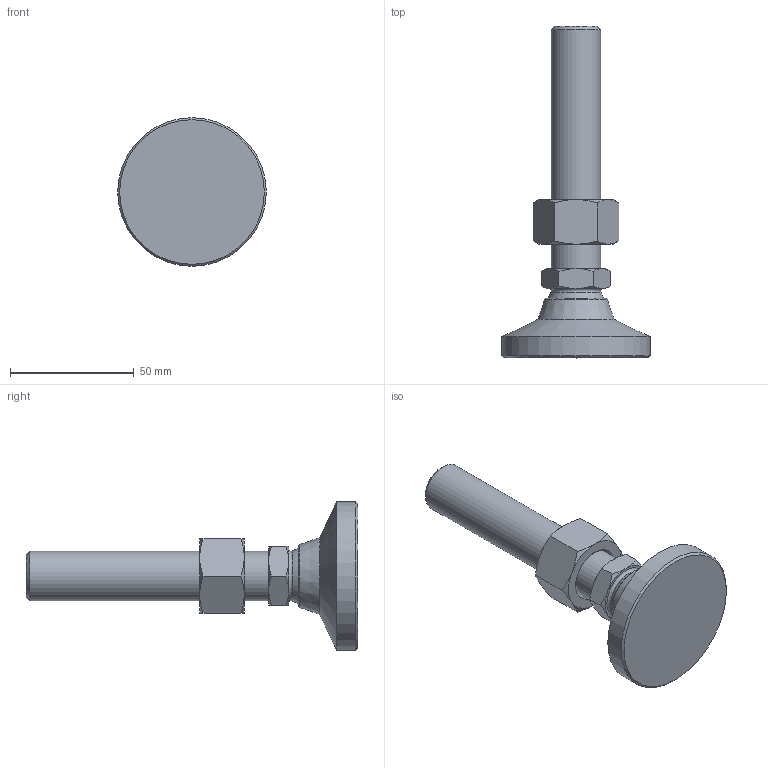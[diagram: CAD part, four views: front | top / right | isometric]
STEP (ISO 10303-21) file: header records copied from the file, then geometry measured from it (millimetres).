
FILE_DESCRIPTION( ( 'STEP AP214' ), ' ' );
FILE_NAME( 'O:/ganter_2015/teil_2/2_5/gn343_2/gn343_2_os/Levelling foot with threaded stud GN 343.2-60-M20-98-OS-(0).stp', '2015-10-26T09:08:43', ( '' ), ( '' ), ' ', 'PARTsolutions', ' ' );
FILE_SCHEMA( ( 'AUTOMOTIVE_DESIGN { 1 0 10303 214 1 1 1 1 }' ) );
Length unit declared in the file: millimetre
Products named in the file (4): Levelling foot with threaded stud GN 343.2-60-M20-98-OS-(0); _Levelling foot with threaded stud GN 343.2-60-M20-98-OS-(0)_foot; _Levelling foot with threaded stud GN 343.2-60-M20-98-OS-(0)_screw; _Stainless Steel-Levelling feet GN 343.2-60-M20-98-OS-(0)_nut
Assembly tree (3 placements, depth 2):
  Levelling foot with threaded stud GN 343.2-60-M20-98-OS-(0)
    _Levelling foot with threaded stud GN 343.2-60-M20-98-OS-(0)_foot
    _Levelling foot with threaded stud GN 343.2-60-M20-98-OS-(0)_screw
    _Stainless Steel-Levelling feet GN 343.2-60-M20-98-OS-(0)_nut
Bounding box: 60 x 134 x 60 mm (x, y, z)
Volume: 86620.6 mm3; surface area: 21181.3 mm2
Topology: 3 solids, 3 shells, 56 faces, 117 edges, 68 vertices
Faces by surface type: cone 30, plane 19, cylinder 3, torus 2, sphere 2
Full cylindrical faces by diameter (mm): 17.294 x1, 20 x1, 60 x1
Entity records: 2090 total; most frequent: CARTESIAN_POINT 522, DIRECTION 212, ORIENTED_EDGE 200, AXIS2_PLACEMENT_3D 100, EDGE_CURVE 100, EDGE_LOOP 72, VERTEX_POINT 66, FACE_OUTER_BOUND 61
